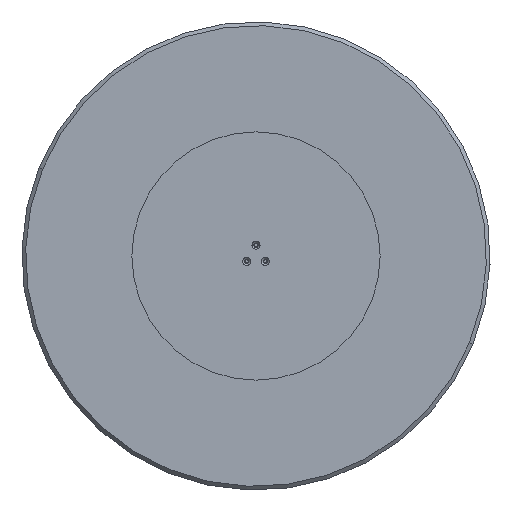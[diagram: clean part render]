
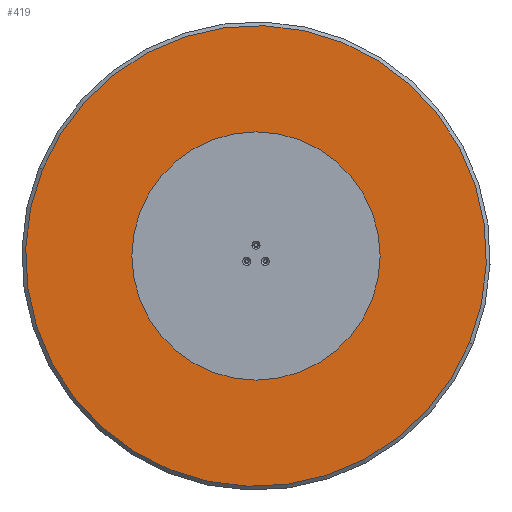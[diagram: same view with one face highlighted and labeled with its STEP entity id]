
A CAD part, front view. The second image highlights one B-rep face of the part: STEP entity #419.
In plain terms, the highlighted planar face has unit normal (0, -1, 0).
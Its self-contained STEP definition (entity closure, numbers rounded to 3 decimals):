
#12 = AXIS2_PLACEMENT_3D ( 'NONE', #5553, #4436, #4979 ) ;
#419 = ADVANCED_FACE ( 'NONE', ( #842 ), #2850, .T. ) ;
#461 = VERTEX_POINT ( 'NONE', #4905 ) ;
#659 = AXIS2_PLACEMENT_3D ( 'NONE', #4744, #6606, #4159 ) ;
#842 = FACE_OUTER_BOUND ( 'NONE', #6519, .T. ) ;
#1152 = CARTESIAN_POINT ( 'NONE',  ( 0., 0., 492. ) ) ;
#1518 = ORIENTED_EDGE ( 'NONE', *, *, #4165, .T. ) ;
#1840 = EDGE_CURVE ( 'NONE', #461, #7152, #3823, .T. ) ;
#2483 = AXIS2_PLACEMENT_3D ( 'NONE', #5144, #8128, #5729 ) ;
#2850 = PLANE ( 'NONE',  #659 ) ;
#3823 = CIRCLE ( 'NONE', #2483, 492. ) ;
#4159 = DIRECTION ( 'NONE',  ( 0., 0., -1. ) ) ;
#4165 = EDGE_CURVE ( 'NONE', #7152, #461, #5493, .T. ) ;
#4436 = DIRECTION ( 'NONE',  ( 0., -1., 0. ) ) ;
#4744 = CARTESIAN_POINT ( 'NONE',  ( 0., 0., 0. ) ) ;
#4758 = ORIENTED_EDGE ( 'NONE', *, *, #1840, .T. ) ;
#4905 = CARTESIAN_POINT ( 'NONE',  ( 0., 0., -492. ) ) ;
#4979 = DIRECTION ( 'NONE',  ( 0., 0., -1. ) ) ;
#5144 = CARTESIAN_POINT ( 'NONE',  ( 0., 0., 0. ) ) ;
#5493 = CIRCLE ( 'NONE', #12, 492. ) ;
#5553 = CARTESIAN_POINT ( 'NONE',  ( 0., 0., 0. ) ) ;
#5729 = DIRECTION ( 'NONE',  ( 0., 0., -1. ) ) ;
#6519 = EDGE_LOOP ( 'NONE', ( #1518, #4758 ) ) ;
#6606 = DIRECTION ( 'NONE',  ( 0., -1., 0. ) ) ;
#7152 = VERTEX_POINT ( 'NONE', #1152 ) ;
#8128 = DIRECTION ( 'NONE',  ( 0., -1., 0. ) ) ;
